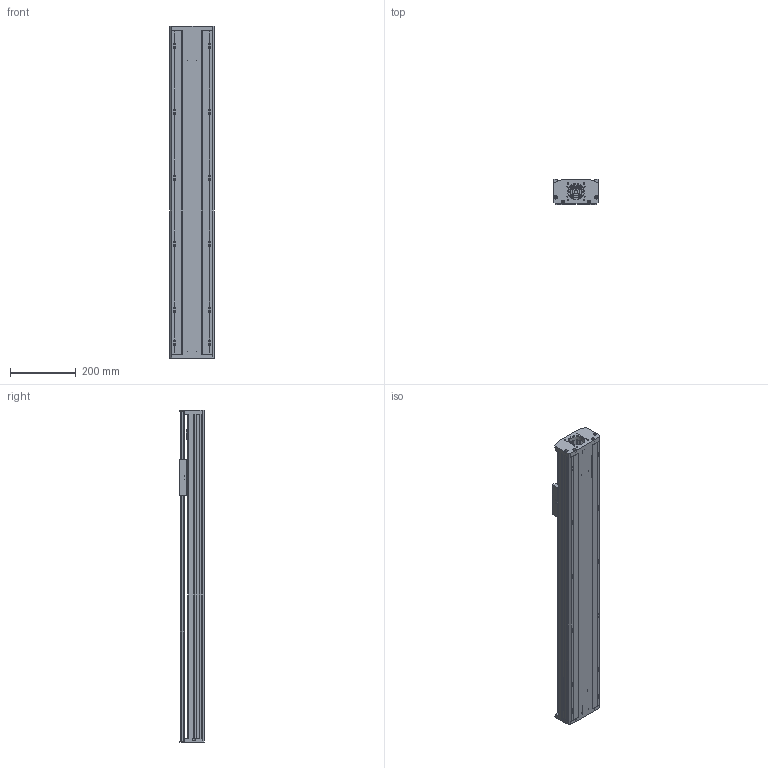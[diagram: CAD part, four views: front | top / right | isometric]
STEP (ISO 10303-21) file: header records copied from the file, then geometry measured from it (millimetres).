
FILE_DESCRIPTION(/* description */ (''),/* implementation_level */ '2;1');
FILE_NAME(/* name */ 'TKA136-F0-750_asm1.stp',/* time_stamp */ '2016-05-07T08:33:41+08:00',/* author */ (''),/* organization */ (''),/* preprocessor_version */ 'ST-DEVELOPER v15',/* originating_system */ 'SIEMENS PLM Software NX 8.5',/* authorisation */ '');
FILE_SCHEMA (('AUTOMOTIVE_DESIGN { 1 0 10303 214 3 1 1 1 }'));
Length unit declared in the file: millimetre
Products named in the file (3): 750-02; 750-01; TKA136-F0-750_asm1
Assembly tree (2 placements, depth 2):
  TKA136-F0-750_asm1
    750-01
    750-02
Bounding box: 136 x 75 x 1007 mm (x, y, z)
Volume: 3168598.9 mm3; surface area: 1171109.8 mm2
Topology: 2 solids, 12 shells, 829 faces, 2349 edges, 1534 vertices
Faces by surface type: cylinder 390, plane 385, cone 54
Full cylindrical faces by diameter (mm): 2.5 x4, 3 x2, 3.3 x12, 4 x4, 4.2 x10, 4.5 x20, 5 x16, 5.5 x26, 6.6 x16, 8 x20, 10 x9, 10.5 x12, 11 x4, 11.6 x1, 12 x9, 15 x3, 16 x5, 17 x1, 24 x5, 26 x1, 28 x1, 46 x1, 50 x1
Entity records: 27948 total; most frequent: CARTESIAN_POINT 7662, DIRECTION 4187, ORIENTED_EDGE 3944, EDGE_CURVE 1972, AXIS2_PLACEMENT_3D 1595, VERTEX_POINT 1420, EDGE_LOOP 1214, LINE 997
